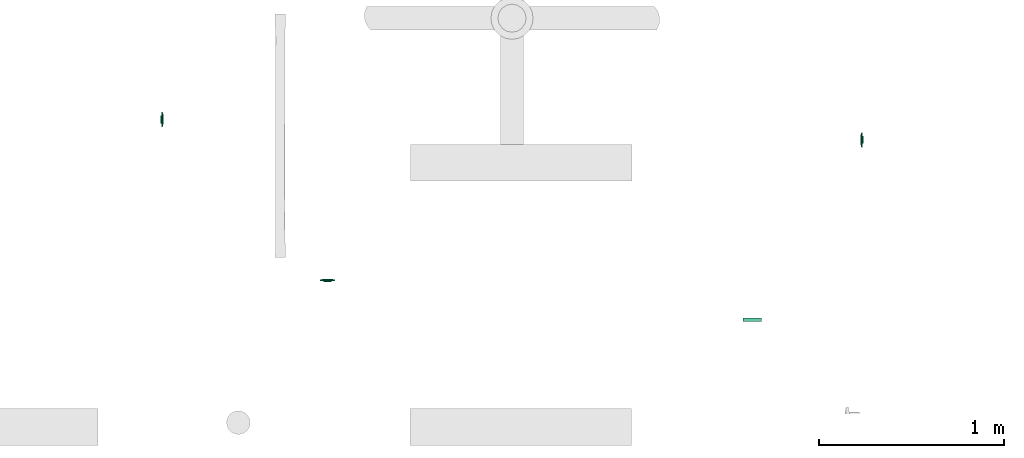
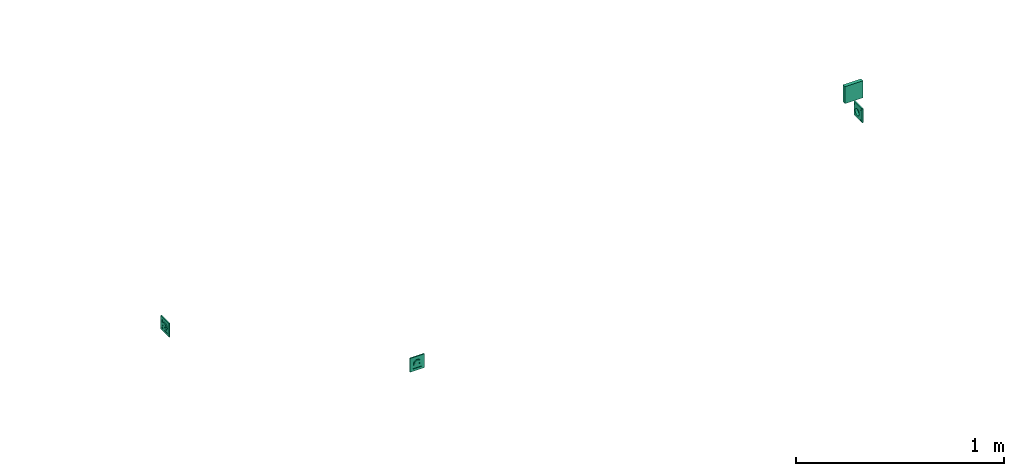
# One storey, part 126 of 153: 3 flow terminals, 1 distribution control element.
"""IFC2X3 building model written with IfcOpenShell, lengths in metres."""

from ifc_helpers import new_model, entity, si_unit, converted_unit, derived_unit, direction, frame, origin, origin_2d_with_axis, place, context, subcontext, project, spatial, rectangle, extrude, face_set, surface_model, source, transform, mapped, type_object, type_shapes, element, save


model = new_model("IFC2X3")

# Units and contexts
model_context = context("Model", 3, precision=1e-05, world=origin(), true_north=direction((6.12303176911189e-17, 1.0)))
body_context = subcontext(model_context, "Body", "Model", "MODEL_VIEW")
ifc_project = project(units=[si_unit("LENGTHUNIT", "METRE"), si_unit("AREAUNIT", "SQUARE_METRE"), si_unit("VOLUMEUNIT", "CUBIC_METRE"), converted_unit("PLANEANGLEUNIT", "DEGREE", entity("IfcRatioMeasure", 0.0174532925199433), si_unit("PLANEANGLEUNIT", "RADIAN"), dimensions=[0, 0, 0, 0, 0, 0, 0]), si_unit("MASSUNIT", "GRAM", prefix="KILO"), derived_unit("MASSDENSITYUNIT", [(si_unit("MASSUNIT", "GRAM", prefix="KILO"), 1), (si_unit("LENGTHUNIT", "METRE"), -3)]), si_unit("TIMEUNIT", "SECOND"), si_unit("FREQUENCYUNIT", "HERTZ"), si_unit("THERMODYNAMICTEMPERATUREUNIT", "DEGREE_CELSIUS"), derived_unit("THERMALTRANSMITTANCEUNIT", [(si_unit("MASSUNIT", "GRAM", prefix="KILO"), 1), (si_unit("THERMODYNAMICTEMPERATUREUNIT", "KELVIN"), -1), (si_unit("TIMEUNIT", "SECOND"), -3)]), derived_unit("VOLUMETRICFLOWRATEUNIT", [(si_unit("LENGTHUNIT", "METRE"), 3), (si_unit("TIMEUNIT", "SECOND"), -1)]), si_unit("ELECTRICCURRENTUNIT", "AMPERE"), si_unit("ELECTRICVOLTAGEUNIT", "VOLT"), si_unit("POWERUNIT", "WATT"), si_unit("FORCEUNIT", "NEWTON"), si_unit("ILLUMINANCEUNIT", "LUX"), si_unit("LUMINOUSFLUXUNIT", "LUMEN"), si_unit("LUMINOUSINTENSITYUNIT", "CANDELA"), derived_unit("USERDEFINED", [(si_unit("MASSUNIT", "GRAM", prefix="KILO"), -1), (si_unit("LENGTHUNIT", "METRE"), -2), (si_unit("TIMEUNIT", "SECOND"), 3), (si_unit("LUMINOUSFLUXUNIT", "LUMEN"), 1)]), derived_unit("LINEARVELOCITYUNIT", [(si_unit("LENGTHUNIT", "METRE"), 1), (si_unit("TIMEUNIT", "SECOND"), -1)]), si_unit("PRESSUREUNIT", "PASCAL"), derived_unit("USERDEFINED", [(si_unit("LENGTHUNIT", "METRE"), -2), (si_unit("MASSUNIT", "GRAM", prefix="KILO"), 1), (si_unit("TIMEUNIT", "SECOND"), -2)])], contexts=[model_context])

# Site, building, storey
site_placement = place(None, origin())
site = spatial("IfcSite", under=ifc_project, at=site_placement, Name="Default", CompositionType="ELEMENT")
building_placement = place(site_placement, origin())
building = spatial("IfcBuilding", under=site, at=building_placement, CompositionType="ELEMENT")
storey_placement = place(building_placement, frame((0.0, 0.0, -4.62)))
storey = spatial("IfcBuildingStorey", under=building, at=storey_placement, Name="S02", CompositionType="ELEMENT", Elevation=-4.62)

# Flow terminals
light_fixture_type = type_object("IfcLightFixtureType", Name="PC IP44", PredefinedType="NOTDEFINED")
shared_shape_1 = source(origin(), body_context, "Body", "SurfaceModel", [
    surface_model("IfcFaceBasedSurfaceModel", [(-0.00225000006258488, 0.0127499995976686, 0.00949633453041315), (0.0, 0.0104999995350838, 0.00949633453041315), (0.0, 0.0115376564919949, 0.0101656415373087), (0.0, 0.0139623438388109, 0.0101656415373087), (0.0, 0.0144589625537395, 0.00984531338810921), (0.0, 0.0121178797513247, 0.0102778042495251), (0.0, 0.0133821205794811, 0.0102778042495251), (0.0, 0.0127499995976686, 0.010399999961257), (0.0, 0.0149999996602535, 0.00949633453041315), (0.00225000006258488, 0.0127499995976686, 0.00949633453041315), (0.0, 0.0110410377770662, 0.00984531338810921), (0.0, 0.0127499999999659, 0.00949633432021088), (0.00225000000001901, 0.0127499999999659, 0.00949633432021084), (0.00217333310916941, 0.0121676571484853, 0.00949633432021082), (0.00194855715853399, 0.0116249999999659, 0.00949633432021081), (0.00159099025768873, 0.0111590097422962, 0.00949633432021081), (0.001125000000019, 0.010801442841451, 0.00949633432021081), (0.00058234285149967, 0.0105766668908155, 0.00949633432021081), (0.0, 0.0104999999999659, 0.00949633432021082), (-0.000582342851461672, 0.0105766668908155, 0.00949633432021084), (-0.001124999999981, 0.010801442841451, 0.00949633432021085), (-0.00159099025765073, 0.0111590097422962, 0.00949633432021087), (-0.00194855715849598, 0.011624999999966, 0.00949633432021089), (-0.0021733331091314, 0.0121676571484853, 0.00949633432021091), (-0.00224999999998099, 0.012749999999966, 0.00949633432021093), (-0.00217333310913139, 0.0133323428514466, 0.00949633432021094), (-0.00194855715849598, 0.013874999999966, 0.00949633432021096), (-0.00159099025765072, 0.0143409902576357, 0.00949633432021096), (-0.00112499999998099, 0.0146985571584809, 0.00949633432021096), (-0.00058234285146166, 0.0149233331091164, 0.00949633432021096), (0.0, 0.0149999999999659, 0.00949633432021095), (0.000582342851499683, 0.0149233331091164, 0.00949633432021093), (0.00112500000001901, 0.0146985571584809, 0.00949633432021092), (0.00159099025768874, 0.0143409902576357, 0.00949633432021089), (0.001948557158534, 0.0138749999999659, 0.00949633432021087), (0.00217333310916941, 0.0133323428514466, 0.00949633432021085), (0.00225000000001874, 0.0127499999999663, -0.00360000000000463), (0.00217333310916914, 0.0121676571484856, -0.00360000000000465), (0.00194855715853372, 0.0116249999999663, -0.00360000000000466), (0.00159099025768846, 0.0111590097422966, -0.00360000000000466), (0.00112500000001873, 0.0108014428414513, -0.00360000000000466), (0.000582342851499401, 0.0105766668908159, -0.00360000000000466), (0.0, 0.0104999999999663, -0.00360000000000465), (-0.000582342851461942, 0.0105766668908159, -0.00360000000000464), (-0.00112499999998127, 0.0108014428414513, -0.00360000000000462), (-0.001590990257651, 0.0111590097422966, -0.0036000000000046), (-0.00194855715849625, 0.0116249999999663, -0.00360000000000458), (-0.00217333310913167, 0.0121676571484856, -0.00360000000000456), (-0.00224999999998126, 0.0127499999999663, -0.00360000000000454), (-0.00217333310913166, 0.013332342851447, -0.00360000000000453), (-0.00194855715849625, 0.0138749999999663, -0.00360000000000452), (-0.00159099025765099, 0.014340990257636, -0.00360000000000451), (-0.00112499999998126, 0.0146985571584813, -0.00360000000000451), (-0.000582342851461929, 0.0149233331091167, -0.00360000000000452), (0.0, 0.0149999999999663, -0.00360000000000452), (0.000582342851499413, 0.0149233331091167, -0.00360000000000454), (0.00112500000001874, 0.0146985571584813, -0.00360000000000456), (0.00159099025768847, 0.014340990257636, -0.00360000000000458), (0.00194855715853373, 0.0138749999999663, -0.0036000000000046), (0.00217333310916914, 0.013332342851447, -0.00360000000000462), (0.0270000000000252, 0.026999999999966, 0.0113999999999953), (-0.0269999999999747, 0.026999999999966, 0.0113999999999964), (-0.0269999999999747, -0.0270000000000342, 0.0113999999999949), (0.0270000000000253, -0.0270000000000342, 0.0113999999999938), (-0.0199999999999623, 0.0, 0.0113999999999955), (-0.0193185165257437, -0.00517638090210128, 0.0113999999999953), (-0.0173205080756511, -0.0100000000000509, 0.0113999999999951), (-0.0141421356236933, -0.0141421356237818, 0.011399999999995), (-0.00999999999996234, -0.0173205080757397, 0.0113999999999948), (-0.00517638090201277, -0.0193185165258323, 0.0113999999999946), (0.0, -0.0200000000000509, 0.0113999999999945), (0.00517638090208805, -0.0193185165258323, 0.0113999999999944), (0.0100000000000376, -0.0173205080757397, 0.0113999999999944), (0.0141421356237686, -0.0141421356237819, 0.0113999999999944), (0.0173205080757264, -0.010000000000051, 0.0113999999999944), (0.0193185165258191, -0.00517638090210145, 0.0113999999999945), (0.0200000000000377, 0.0, 0.0113999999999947), (0.0193185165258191, 0.00517638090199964, 0.0113999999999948), (0.0173205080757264, 0.0099999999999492, 0.011399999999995), (0.0141421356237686, 0.0141421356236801, 0.0113999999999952), (0.0100000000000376, 0.0173205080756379, 0.0113999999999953), (0.00517638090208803, 0.0193185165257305, 0.0113999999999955), (0.0, 0.0199999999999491, 0.0113999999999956), (-0.00517638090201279, 0.0193185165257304, 0.0113999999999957), (-0.00999999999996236, 0.0173205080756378, 0.0113999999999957), (-0.0141421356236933, 0.01414213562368, 0.0113999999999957), (-0.0173205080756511, 0.00999999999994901, 0.0113999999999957), (-0.0193185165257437, 0.00517638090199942, 0.0113999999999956), (0.0270000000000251, 0.0269999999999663, 0.00199999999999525), (0.0270000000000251, -0.0270000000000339, 0.00199999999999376), (-0.0269999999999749, -0.0270000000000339, 0.00199999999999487), (-0.0269999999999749, 0.0269999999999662, 0.00199999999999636), (0.0210000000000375, 0.0, 0.00199999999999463), (0.0202844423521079, -0.00543519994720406, 0.00199999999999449), (0.0181865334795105, -0.0105000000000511, 0.0019999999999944), (0.0148492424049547, -0.0148492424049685, 0.00199999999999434), (0.0105000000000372, -0.0181865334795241, 0.00199999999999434), (0.0054351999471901, -0.0202844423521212, 0.00199999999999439), (0.0, -0.0210000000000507, 0.00199999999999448), (-0.00543519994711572, -0.020284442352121, 0.00199999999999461), (-0.0104999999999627, -0.0181865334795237, 0.00199999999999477), (-0.0148492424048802, -0.014849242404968, 0.00199999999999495), (-0.0181865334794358, -0.0105000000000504, 0.00199999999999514), (-0.020284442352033, -0.00543519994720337, 0.00199999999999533), (-0.0209999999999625, 0.0, 0.00199999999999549), (-0.0202844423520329, 0.0054351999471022, 0.00199999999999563), (-0.0181865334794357, 0.0104999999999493, 0.00199999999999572), (-0.01484924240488, 0.0148492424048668, 0.00199999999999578), (-0.0104999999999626, 0.0181865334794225, 0.00199999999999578), (-0.00543519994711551, 0.0202844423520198, 0.00199999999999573), (0.0, 0.0209999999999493, 0.00199999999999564), (0.00543519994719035, 0.0202844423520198, 0.00199999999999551), (0.0105000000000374, 0.0181865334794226, 0.00199999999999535), (0.0148492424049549, 0.0148492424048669, 0.00199999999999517), (0.0181865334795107, 0.0104999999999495, 0.00199999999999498), (0.0202844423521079, 0.00543519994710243, 0.00199999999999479), (0.0200000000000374, 0.0, -0.00360000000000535), (0.0193185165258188, -0.00517638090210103, -0.00360000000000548), (0.0173205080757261, -0.0100000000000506, -0.00360000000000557), (0.0141421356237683, -0.0141421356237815, -0.00360000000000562), (0.0100000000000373, -0.0173205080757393, -0.00360000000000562), (0.00517638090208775, -0.0193185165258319, -0.00360000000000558), (0.0, -0.0200000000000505, -0.00360000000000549), (-0.00517638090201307, -0.0193185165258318, -0.00360000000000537), (-0.00999999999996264, -0.0173205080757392, -0.00360000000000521), (-0.0141421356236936, -0.0141421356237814, -0.00360000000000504), (-0.0173205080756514, -0.0100000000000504, -0.00360000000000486), (-0.019318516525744, -0.00517638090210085, -0.00360000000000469), (-0.0199999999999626, 0.0, -0.00360000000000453), (-0.0193185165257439, 0.00517638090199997, -0.0036000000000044), (-0.0173205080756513, 0.00999999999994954, -0.00360000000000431), (-0.0141421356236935, 0.0141421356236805, -0.00360000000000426), (-0.00999999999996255, 0.0173205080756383, -0.00360000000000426), (-0.00517638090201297, 0.0193185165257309, -0.0036000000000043), (0.0, 0.0199999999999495, -0.00360000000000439), (0.00517638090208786, 0.0193185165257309, -0.00360000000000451), (0.0100000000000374, 0.0173205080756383, -0.00360000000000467), (0.0141421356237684, 0.0141421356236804, -0.00360000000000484), (0.0173205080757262, 0.0099999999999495, -0.00360000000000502), (0.0193185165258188, 0.00517638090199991, -0.00360000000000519), (-0.0123499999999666, 0.0, -0.00360000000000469), (-0.0122562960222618, -0.000711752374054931, -0.00360000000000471), (-0.0119815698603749, -0.00137500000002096, -0.00360000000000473), (-0.0115445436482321, -0.00194454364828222, -0.00360000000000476), (-0.0109749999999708, -0.00238156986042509, -0.00360000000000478), (-0.0103117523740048, -0.00265629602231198, -0.0036000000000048), (-0.00959999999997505, -0.00275000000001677, -0.00360000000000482), (-0.0088882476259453, -0.00265629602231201, -0.00360000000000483), (-0.00822499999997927, -0.00238156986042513, -0.00360000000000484), (-0.00765545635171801, -0.00194454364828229, -0.00360000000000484), (-0.00721843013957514, -0.00137500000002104, -0.00360000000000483), (-0.00694370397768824, -0.000711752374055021, -0.00360000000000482), (-0.00684999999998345, 0.0, -0.0036000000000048), (-0.00694370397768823, 0.000711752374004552, -0.00360000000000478), (-0.00721843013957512, 0.00137499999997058, -0.00360000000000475), (-0.00765545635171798, 0.00194454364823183, -0.00360000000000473), (-0.00822499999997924, 0.00238156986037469, -0.0036000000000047), (-0.00888824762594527, 0.00265629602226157, -0.00360000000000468), (-0.00959999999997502, 0.00274999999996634, -0.00360000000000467), (-0.0103117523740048, 0.00265629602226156, -0.00360000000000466), (-0.0109749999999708, 0.00238156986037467, -0.00360000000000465), (-0.011544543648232, 0.00194454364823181, -0.00360000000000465), (-0.0119815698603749, 0.00137499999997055, -0.00360000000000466), (-0.0122562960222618, 0.000711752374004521, -0.00360000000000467), (0.00685000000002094, 0.0, -0.00360000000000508), (0.0069437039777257, -0.00071175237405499, -0.0036000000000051), (0.00721843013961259, -0.00137500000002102, -0.00360000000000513), (0.00765545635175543, -0.00194454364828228, -0.00360000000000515), (0.00822500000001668, -0.00238156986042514, -0.00360000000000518), (0.00888824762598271, -0.00265629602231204, -0.0036000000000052), (0.00960000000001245, -0.00275000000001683, -0.00360000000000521), (0.0103117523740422, -0.00265629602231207, -0.00360000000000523), (0.0109750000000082, -0.00238156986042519, -0.00360000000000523), (0.0115445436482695, -0.00194454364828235, -0.00360000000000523), (0.0119815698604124, -0.0013750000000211, -0.00360000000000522), (0.0122562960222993, -0.00071175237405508, -0.00360000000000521), (0.012350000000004, 0.0, -0.00360000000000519), (0.0122562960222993, 0.000711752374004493, -0.00360000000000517), (0.0119815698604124, 0.00137499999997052, -0.00360000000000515), (0.0115445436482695, 0.00194454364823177, -0.00360000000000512), (0.0109750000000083, 0.00238156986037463, -0.0036000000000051), (0.0103117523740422, 0.00265629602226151, -0.00360000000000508), (0.00960000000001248, 0.00274999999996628, -0.00360000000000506), (0.00888824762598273, 0.0026562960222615, -0.00360000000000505), (0.0082250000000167, 0.00238156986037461, -0.00360000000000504), (0.00765545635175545, 0.00194454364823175, -0.00360000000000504), (0.0072184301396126, 0.00137499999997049, -0.00360000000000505), (0.00694370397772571, 0.000711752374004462, -0.00360000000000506), (0.0210000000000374, 0.0, -0.00460000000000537), (0.0202844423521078, -0.00543519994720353, -0.00460000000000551), (0.0181865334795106, -0.0105000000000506, -0.0046000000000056), (0.0148492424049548, -0.0148492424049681, -0.00460000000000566), (0.0105000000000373, -0.0181865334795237, -0.00460000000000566), (0.00543519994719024, -0.0202844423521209, -0.00460000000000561), (0.0, -0.0210000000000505, -0.00460000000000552), (-0.00543519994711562, -0.0202844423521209, -0.00460000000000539), (-0.0104999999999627, -0.0181865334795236, -0.00460000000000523), (-0.0148492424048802, -0.0148492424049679, -0.00460000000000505), (-0.0181865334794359, -0.0105000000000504, -0.00460000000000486), (-0.0202844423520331, -0.00543519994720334, -0.00460000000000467), (-0.0209999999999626, 0.0, -0.00460000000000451), (-0.020284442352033, 0.00543519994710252, -0.00460000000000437), (-0.0181865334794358, 0.0104999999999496, -0.00460000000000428), (-0.0148492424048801, 0.0148492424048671, -0.00460000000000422), (-0.0104999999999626, 0.0181865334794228, -0.00460000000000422), (-0.00543519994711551, 0.02028444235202, -0.00460000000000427), (0.0, 0.0209999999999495, -0.00460000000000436), (0.00543519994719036, 0.02028444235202, -0.00460000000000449), (0.0105000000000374, 0.0181865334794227, -0.00460000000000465), (0.0148492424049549, 0.014849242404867, -0.00460000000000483), (0.0181865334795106, 0.0104999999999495, -0.00460000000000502), (0.0202844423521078, 0.00543519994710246, -0.00460000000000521), (-0.00684999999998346, 0.0, -0.0046000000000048), (-0.00694370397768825, 0.000711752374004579, -0.00460000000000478), (-0.00721843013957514, 0.00137499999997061, -0.00460000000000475), (-0.007655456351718, 0.00194454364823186, -0.00460000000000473), (-0.00822499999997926, 0.00238156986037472, -0.0046000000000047), (-0.00888824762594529, 0.0026562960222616, -0.00460000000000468), (-0.00959999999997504, 0.00274999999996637, -0.00460000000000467), (-0.0103117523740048, 0.00265629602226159, -0.00460000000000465), (-0.0109749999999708, 0.0023815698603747, -0.00460000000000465), (-0.0115445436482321, 0.00194454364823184, -0.00460000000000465), (-0.0119815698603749, 0.00137499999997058, -0.00460000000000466), (-0.0122562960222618, 0.000711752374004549, -0.00460000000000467), (-0.0123499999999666, 0.0, -0.00460000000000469), (-0.0122562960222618, -0.000711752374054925, -0.00460000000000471), (-0.0119815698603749, -0.00137500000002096, -0.00460000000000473), (-0.0115445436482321, -0.00194454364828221, -0.00460000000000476), (-0.0109749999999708, -0.00238156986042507, -0.00460000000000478), (-0.0103117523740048, -0.00265629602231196, -0.0046000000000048), (-0.00959999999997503, -0.00275000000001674, -0.00460000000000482), (-0.00888824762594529, -0.00265629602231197, -0.00460000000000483), (-0.00822499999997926, -0.00238156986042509, -0.00460000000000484), (-0.007655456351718, -0.00194454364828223, -0.00460000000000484), (-0.00721843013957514, -0.00137500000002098, -0.00460000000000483), (-0.00694370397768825, -0.000711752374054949, -0.00460000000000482), (0.012350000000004, 0.0, -0.00460000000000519), (0.0122562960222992, 0.000711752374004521, -0.00460000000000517), (0.0119815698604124, 0.00137499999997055, -0.00460000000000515), (0.0115445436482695, 0.0019445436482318, -0.00460000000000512), (0.0109750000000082, 0.00238156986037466, -0.0046000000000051), (0.0103117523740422, 0.00265629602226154, -0.00460000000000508), (0.00960000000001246, 0.00274999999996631, -0.00460000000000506), (0.00888824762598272, 0.00265629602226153, -0.00460000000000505), (0.00822500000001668, 0.00238156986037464, -0.00460000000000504), (0.00765545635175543, 0.00194454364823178, -0.00460000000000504), (0.00721843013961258, 0.00137499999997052, -0.00460000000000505), (0.00694370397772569, 0.00071175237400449, -0.00460000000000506), (0.00685000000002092, 0.0, -0.00460000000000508), (0.00694370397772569, -0.000711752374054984, -0.0046000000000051), (0.00721843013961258, -0.00137500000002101, -0.00460000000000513), (0.00765545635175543, -0.00194454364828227, -0.00460000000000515), (0.00822500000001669, -0.00238156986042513, -0.00460000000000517), (0.00888824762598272, -0.00265629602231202, -0.0046000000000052), (0.00960000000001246, -0.0027500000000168, -0.00460000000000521), (0.0103117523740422, -0.00265629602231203, -0.00460000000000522), (0.0109750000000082, -0.00238156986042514, -0.00460000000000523), (0.0115445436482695, -0.00194454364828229, -0.00460000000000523), (0.0119815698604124, -0.00137500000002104, -0.00460000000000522), (0.0122562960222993, -0.000711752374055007, -0.00460000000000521), (0.040350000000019, 0.0403499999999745, 0.00659999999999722), (0.040350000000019, -0.0403500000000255, 0.00659999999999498), (-0.0403499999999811, -0.0403500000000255, 0.00659999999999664), (-0.0403499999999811, 0.0403499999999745, 0.00659999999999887), (0.027000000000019, 0.0269999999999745, 0.00659999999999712), (-0.0269999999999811, 0.0269999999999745, 0.00659999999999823), (-0.026999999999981, -0.0270000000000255, 0.00659999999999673), (0.027000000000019, -0.0270000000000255, 0.00659999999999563), (0.027000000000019, 0.0269999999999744, 0.0103999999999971), (-0.026999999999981, 0.0269999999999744, 0.0103999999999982), (-0.026999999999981, -0.0270000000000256, 0.0103999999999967), (0.027000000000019, -0.0270000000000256, 0.0103999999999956), (0.040350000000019, 0.0403499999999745, 0.00659999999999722), (0.040350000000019, -0.0403500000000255, 0.00659999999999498), (-0.0403499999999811, -0.0403500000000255, 0.00659999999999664), (-0.0403499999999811, 0.0403499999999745, 0.00659999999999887), (-0.0269999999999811, 0.0269999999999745, 0.00659999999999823), (-0.0269999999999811, -0.0270000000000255, 0.00659999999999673), (0.0270000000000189, -0.0270000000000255, 0.00659999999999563), (0.0270000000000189, 0.0269999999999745, 0.00659999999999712), (0.0403500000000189, 0.0403499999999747, 0.0), (0.0403500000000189, -0.0403500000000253, 0.0), (-0.0403499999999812, -0.0403500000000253, 0.0), (-0.0403499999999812, 0.0403499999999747, 0.0), (0.0270000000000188, 0.0269999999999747, 0.0), (-0.0269999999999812, 0.0269999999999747, 0.0), (-0.0269999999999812, -0.0270000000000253, 0.0), (0.0270000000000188, -0.0270000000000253, 0.0)], [face_set([[[0, 1, 2]], [[3, 4, 2, 5]], [[6, 3, 5, 7]], [[2, 4, 0]], [[4, 8, 0]], [[3, 9, 8]], [[1, 9, 10]], [[2, 3, 6, 7]], [[3, 10, 9]], [[2, 10, 3]], [[11, 1, 0, 8]], [[11, 8, 9, 1]]]), face_set([[[12, 13, 14, 15, 16, 17, 18, 19, 20, 21, 22, 23, 24, 25, 26, 27, 28, 29, 30, 31, 32, 33, 34, 35]], [[36, 37, 38, 39, 40, 41, 42, 43, 44, 45, 46, 47, 48, 49, 50, 51, 52, 53, 54, 55, 56, 57, 58, 59]], [[48, 47, 23, 24]], [[47, 46, 22, 23]], [[45, 44, 20, 21]], [[46, 45, 21, 22]], [[44, 43, 19, 20]], [[18, 19, 43, 42]], [[42, 41, 17, 18]], [[41, 40, 16, 17]], [[39, 38, 14, 15]], [[40, 39, 15, 16]], [[38, 37, 13, 14]], [[12, 13, 37, 36]], [[36, 59, 35, 12]], [[59, 58, 34, 35]], [[57, 56, 32, 33]], [[58, 57, 33, 34]], [[56, 55, 31, 32]], [[30, 31, 55, 54]], [[54, 53, 29, 30]], [[53, 52, 28, 29]], [[51, 50, 26, 27]], [[52, 51, 27, 28]], [[50, 49, 25, 26]], [[24, 25, 49, 48]]]), face_set([[[60, 61, 62, 63], [64, 65, 66, 67, 68, 69, 70, 71, 72, 73, 74, 75, 76, 77, 78, 79, 80, 81, 82, 83, 84, 85, 86, 87]], [[88, 89, 90, 91], [92, 93, 94, 95, 96, 97, 98, 99, 100, 101, 102, 103, 104, 105, 106, 107, 108, 109, 110, 111, 112, 113, 114, 115]], [[61, 60, 88, 91]], [[62, 61, 91, 90]], [[63, 62, 90, 89]], [[60, 63, 89, 88]], [[116, 117, 118, 119, 120, 121, 122, 123, 124, 125, 126, 127, 128, 129, 130, 131, 132, 133, 134, 135, 136, 137, 138, 139], [140, 141, 142, 143, 144, 145, 146, 147, 148, 149, 150, 151, 152, 153, 154, 155, 156, 157, 158, 159, 160, 161, 162, 163], [164, 165, 166, 167, 168, 169, 170, 171, 172, 173, 174, 175, 176, 177, 178, 179, 180, 181, 182, 183, 184, 185, 186, 187]], [[64, 128, 127, 65]], [[65, 127, 126, 66]], [[67, 125, 124, 68]], [[66, 126, 125, 67]], [[68, 124, 123, 69]], [[122, 70, 69, 123]], [[70, 122, 121, 71]], [[71, 121, 120, 72]], [[73, 119, 118, 74]], [[72, 120, 119, 73]], [[74, 118, 117, 75]], [[116, 76, 75, 117]], [[76, 116, 139, 77]], [[77, 139, 138, 78]], [[79, 137, 136, 80]], [[78, 138, 137, 79]], [[80, 136, 135, 81]], [[134, 82, 81, 135]], [[82, 134, 133, 83]], [[83, 133, 132, 84]], [[84, 132, 131, 85]], [[85, 131, 130, 86]], [[130, 129, 87, 86]], [[64, 87, 129, 128]], [[188, 189, 190, 191, 192, 193, 194, 195, 196, 197, 198, 199, 200, 201, 202, 203, 204, 205, 206, 207, 208, 209, 210, 211], [212, 213, 214, 215, 216, 217, 218, 219, 220, 221, 222, 223, 224, 225, 226, 227, 228, 229, 230, 231, 232, 233, 234, 235], [236, 237, 238, 239, 240, 241, 242, 243, 244, 245, 246, 247, 248, 249, 250, 251, 252, 253, 254, 255, 256, 257, 258, 259]], [[200, 199, 103, 104]], [[199, 198, 102, 103]], [[197, 196, 100, 101]], [[198, 197, 101, 102]], [[196, 195, 99, 100]], [[98, 99, 195, 194]], [[194, 193, 97, 98]], [[193, 192, 96, 97]], [[191, 190, 94, 95]], [[192, 191, 95, 96]], [[190, 189, 93, 94]], [[92, 93, 189, 188]], [[188, 211, 115, 92]], [[211, 210, 114, 115]], [[209, 208, 112, 113]], [[210, 209, 113, 114]], [[208, 207, 111, 112]], [[110, 111, 207, 206]], [[206, 205, 109, 110]], [[205, 204, 108, 109]], [[203, 202, 106, 107]], [[204, 203, 107, 108]], [[202, 201, 105, 106]], [[104, 105, 201, 200]], [[141, 225, 226, 142]], [[140, 224, 225, 141]], [[144, 228, 229, 145]], [[143, 227, 228, 144]], [[142, 226, 227, 143]], [[230, 146, 145, 229]], [[149, 233, 232, 148]], [[148, 232, 231, 147]], [[152, 212, 235, 151]], [[151, 235, 234, 150]], [[150, 234, 233, 149]], [[146, 230, 231, 147]], [[154, 214, 213, 153]], [[153, 213, 212, 152]], [[157, 217, 216, 156]], [[156, 216, 215, 155]], [[155, 215, 214, 154]], [[218, 158, 157, 217]], [[160, 220, 221, 161]], [[159, 219, 220, 160]], [[163, 223, 224, 140]], [[162, 222, 223, 163]], [[161, 221, 222, 162]], [[158, 218, 219, 159]], [[166, 250, 249, 165]], [[165, 249, 248, 164]], [[169, 253, 252, 168]], [[168, 252, 251, 167]], [[167, 251, 250, 166]], [[254, 170, 169, 253]], [[172, 256, 257, 173]], [[171, 255, 256, 172]], [[175, 259, 236, 176]], [[174, 258, 259, 175]], [[173, 257, 258, 174]], [[170, 254, 255, 171]], [[177, 237, 238, 178]], [[176, 236, 237, 177]], [[180, 240, 241, 181]], [[179, 239, 240, 180]], [[178, 238, 239, 179]], [[242, 182, 181, 241]], [[185, 245, 244, 184]], [[184, 244, 243, 183]], [[164, 248, 247, 187]], [[187, 247, 246, 186]], [[186, 246, 245, 185]], [[182, 242, 243, 183]]]), face_set([[[260, 261, 262, 263], [264, 265, 266, 267]], [[260, 268, 269, 263]], [[263, 269, 270, 262]], [[262, 270, 271, 261]], [[261, 271, 268, 260]], [[264, 265, 269, 268]], [[265, 266, 270, 269]], [[266, 267, 271, 270]], [[268, 271, 267, 264]]]), face_set([[[272, 273, 274, 275], [276, 277, 278, 279]], [[280, 281, 282, 283], [284, 285, 286, 287]], [[275, 272, 280, 283]], [[274, 275, 283, 282]], [[273, 274, 282, 281]], [[272, 273, 281, 280]], [[284, 285, 276, 279]], [[285, 286, 277, 276]], [[286, 287, 278, 277]], [[279, 278, 287, 284]]])]),
])
type_shapes(light_fixture_type, [shared_shape_1])
flow_terminal_placement = place(storey_placement, frame((65.3897436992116, -192.494488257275, 0.130000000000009), z_axis=(-1.0, 0.0, 0.0), x_axis=(0.0, -1.0, 0.0)))
element("IfcFlowTerminal", 1, at=flow_terminal_placement, inside=storey, type_object=light_fixture_type, Name="INT Prise de courant:PC IP44", ObjectType="INT Prise de courant:PC IP44", context=body_context, shape_type="MappedRepresentation", body=[
    mapped(shared_shape_1, transform((0.0, 0.0, 0.0), scale=1.0)),
])
for number, where, z_axis, x_axis in (
    (2, (61.5897436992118, -192.384109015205, -4.48999999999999), (1.0, 0.0, 0.0), (0.0, 1.0, 0.0)),
    (3, (62.489583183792, -193.259651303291, -4.48999999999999), (0.0, 1.0, 0.0), (-1.0, 0.0, 0.0)),
):
    element("IfcFlowTerminal", number, at=place(building_placement, frame(where, z_axis=z_axis, x_axis=x_axis)), inside=storey, type_object=light_fixture_type, Name="INT Prise de courant:PC IP44", ObjectType="INT Prise de courant:PC IP44", context=body_context, shape_type="MappedRepresentation", body=[
        mapped(shared_shape_1, transform((0.0, 0.0, 0.0), scale=1.0)),
    ])

# Distribution control element
alarm_type = type_object("IfcAlarmType", Name="Incendie_Déclenheur manuel", PredefinedType="NOTDEFINED")
shared_shape_2 = source(origin(), body_context, "Body", "SweptSolid", [
    extrude(rectangle(XDim=0.1, YDim=0.1, at=origin_2d_with_axis()), frame((0.0, 0.0, 0.0), z_axis=(0.0, 0.0, 1.0), x_axis=(0.0, 1.0, 0.0)), (0.0, 0.0, 1.0), 0.02),
])
type_shapes(alarm_type, [shared_shape_2])
distribution_control_element_placement = place(building_placement, frame((64.7922901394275, -193.459651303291, -3.56999999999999), z_axis=(0.0, -1.0, 0.0), x_axis=(1.0, 0.0, 0.0)))
element("IfcDistributionControlElement", 4, at=distribution_control_element_placement, inside=storey, type_object=alarm_type, Name="INT_Déclenheur manuel:Incendie_Déclenheur manuel", ObjectType="INT_Déclenheur manuel:Incendie_Déclenheur manuel", context=body_context, shape_type="MappedRepresentation", body=[
    mapped(shared_shape_2, transform((0.0, 0.0, 0.0), scale=1.0)),
])

save(model, "model.ifc")
